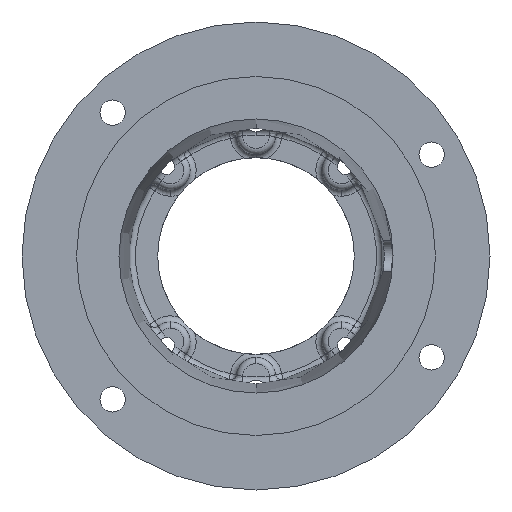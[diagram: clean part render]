
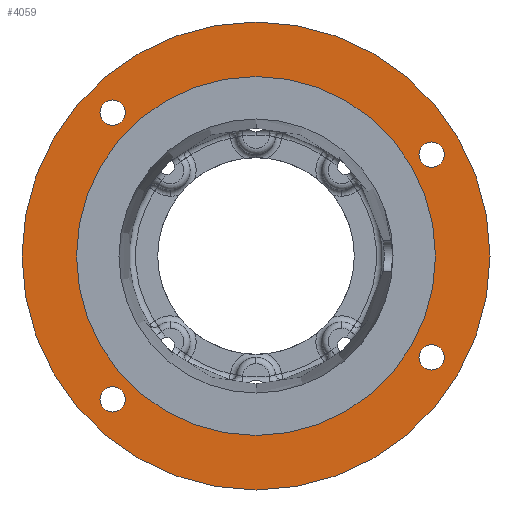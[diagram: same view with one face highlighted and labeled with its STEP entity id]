
A CAD part, front view. The second image highlights one B-rep face of the part: STEP entity #4059.
In plain terms, the highlighted planar face has unit normal (0, -1, 0).
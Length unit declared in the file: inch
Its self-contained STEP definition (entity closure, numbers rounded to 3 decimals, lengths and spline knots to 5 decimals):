
#79 = DIRECTION ( 'NONE',  ( 0., 0., 1. ) ) ;
#87 = AXIS2_PLACEMENT_3D ( 'NONE', #1024, #5288, #1628 ) ;
#194 = CARTESIAN_POINT ( 'NONE',  ( 2.81458, 0., 1.82812 ) ) ;
#209 = DIRECTION ( 'NONE',  ( 0., 0., -1. ) ) ;
#251 = VERTEX_POINT ( 'NONE', #7390 ) ;
#275 = CARTESIAN_POINT ( 'NONE',  ( -2.2981, 0., -2.2981 ) ) ;
#342 = FACE_OUTER_BOUND ( 'NONE', #5401, .T. ) ;
#460 = CARTESIAN_POINT ( 'NONE',  ( -2.2981, 0., 2.09497 ) ) ;
#553 = CARTESIAN_POINT ( 'NONE',  ( 0., 0., 0. ) ) ;
#637 = CARTESIAN_POINT ( 'NONE',  ( 2.81458, 0., 1.42187 ) ) ;
#789 = CARTESIAN_POINT ( 'NONE',  ( -2.2981, 0., -2.50122 ) ) ;
#796 = VERTEX_POINT ( 'NONE', #460 ) ;
#814 = DIRECTION ( 'NONE',  ( 0., -1., 0. ) ) ;
#867 = AXIS2_PLACEMENT_3D ( 'NONE', #553, #4816, #1185 ) ;
#907 = DIRECTION ( 'NONE',  ( 0., 0., -1. ) ) ;
#942 = VERTEX_POINT ( 'NONE', #3569 ) ;
#1024 = CARTESIAN_POINT ( 'NONE',  ( 0., 0., 0. ) ) ;
#1039 = VERTEX_POINT ( 'NONE', #6819 ) ;
#1185 = DIRECTION ( 'NONE',  ( 0., 0., -1. ) ) ;
#1298 = DIRECTION ( 'NONE',  ( 0., 1., 0. ) ) ;
#1456 = DIRECTION ( 'NONE',  ( 0., -1., 0. ) ) ;
#1461 = CARTESIAN_POINT ( 'NONE',  ( -2.2981, 0., 2.2981 ) ) ;
#1628 = DIRECTION ( 'NONE',  ( 0., 0., -1. ) ) ;
#1663 = ORIENTED_EDGE ( 'NONE', *, *, #7166, .F. ) ;
#1714 = AXIS2_PLACEMENT_3D ( 'NONE', #275, #4541, #907 ) ;
#1742 = AXIS2_PLACEMENT_3D ( 'NONE', #1461, #5743, #2092 ) ;
#1755 = AXIS2_PLACEMENT_3D ( 'NONE', #2036, #6326, #2667 ) ;
#1761 = ORIENTED_EDGE ( 'NONE', *, *, #5145, .F. ) ;
#1784 = AXIS2_PLACEMENT_3D ( 'NONE', #5643, #1978, #6270 ) ;
#1821 = AXIS2_PLACEMENT_3D ( 'NONE', #3155, #7474, #3739 ) ;
#1949 = VERTEX_POINT ( 'NONE', #3130 ) ;
#1978 = DIRECTION ( 'NONE',  ( 0., -1., 0. ) ) ;
#1984 = FACE_BOUND ( 'NONE', #4142, .T. ) ;
#2036 = CARTESIAN_POINT ( 'NONE',  ( 2.81458, 0., 1.625 ) ) ;
#2053 = CARTESIAN_POINT ( 'NONE',  ( 2.81458, 0., 1.625 ) ) ;
#2092 = DIRECTION ( 'NONE',  ( 0., 0., -1. ) ) ;
#2378 = FACE_BOUND ( 'NONE', #6090, .T. ) ;
#2582 = CIRCLE ( 'NONE', #6135, 2.876 ) ;
#2625 = ORIENTED_EDGE ( 'NONE', *, *, #7143, .F. ) ;
#2667 = DIRECTION ( 'NONE',  ( 0., 0., -1. ) ) ;
#2682 = CIRCLE ( 'NONE', #87, 3.75 ) ;
#2685 = DIRECTION ( 'NONE',  ( 0., 0., -1. ) ) ;
#2738 = AXIS2_PLACEMENT_3D ( 'NONE', #7464, #1298, #79 ) ;
#2768 = CIRCLE ( 'NONE', #4533, 0.20312 ) ;
#3130 = CARTESIAN_POINT ( 'NONE',  ( 2.81458, 0., -1.42188 ) ) ;
#3155 = CARTESIAN_POINT ( 'NONE',  ( 0., 0., 0. ) ) ;
#3216 = ORIENTED_EDGE ( 'NONE', *, *, #7151, .F. ) ;
#3246 = DIRECTION ( 'NONE',  ( 0., -1., 0. ) ) ;
#3558 = CIRCLE ( 'NONE', #1742, 0.20312 ) ;
#3569 = CARTESIAN_POINT ( 'NONE',  ( 0., 0., -2.876 ) ) ;
#3739 = DIRECTION ( 'NONE',  ( 0., 0., -1. ) ) ;
#3756 = CARTESIAN_POINT ( 'NONE',  ( 0., 0., 3.75 ) ) ;
#3871 = DIRECTION ( 'NONE',  ( 0., -1., 0. ) ) ;
#3973 = CIRCLE ( 'NONE', #4586, 0.20312 ) ;
#4059 = ADVANCED_FACE ( 'NONE', ( #5814, #5234, #2378, #7095, #1984, #342 ), #6827, .F. ) ;
#4130 = VERTEX_POINT ( 'NONE', #7502 ) ;
#4139 = CIRCLE ( 'NONE', #1784, 0.20312 ) ;
#4142 = EDGE_LOOP ( 'NONE', ( #1663, #6511 ) ) ;
#4158 = VERTEX_POINT ( 'NONE', #3756 ) ;
#4195 = VERTEX_POINT ( 'NONE', #789 ) ;
#4380 = VERTEX_POINT ( 'NONE', #5245 ) ;
#4454 = CARTESIAN_POINT ( 'NONE',  ( 2.81458, 0., -1.625 ) ) ;
#4533 = AXIS2_PLACEMENT_3D ( 'NONE', #4454, #814, #5085 ) ;
#4541 = DIRECTION ( 'NONE',  ( 0., -1., 0. ) ) ;
#4574 = VERTEX_POINT ( 'NONE', #5580 ) ;
#4586 = AXIS2_PLACEMENT_3D ( 'NONE', #7610, #3871, #209 ) ;
#4587 = AXIS2_PLACEMENT_3D ( 'NONE', #5113, #1456, #5738 ) ;
#4651 = VERTEX_POINT ( 'NONE', #194 ) ;
#4816 = DIRECTION ( 'NONE',  ( 0., -1., 0. ) ) ;
#5069 = EDGE_CURVE ( 'NONE', #4380, #942, #7856, .T. ) ;
#5085 = DIRECTION ( 'NONE',  ( 0., 0., -1. ) ) ;
#5093 = EDGE_CURVE ( 'NONE', #1949, #4130, #4139, .T. ) ;
#5113 = CARTESIAN_POINT ( 'NONE',  ( -2.2981, 0., -2.2981 ) ) ;
#5145 = EDGE_CURVE ( 'NONE', #4651, #5680, #5397, .T. ) ;
#5180 = EDGE_CURVE ( 'NONE', #251, #796, #3558, .T. ) ;
#5209 = EDGE_CURVE ( 'NONE', #1039, #4195, #6282, .T. ) ;
#5234 = FACE_BOUND ( 'NONE', #7671, .T. ) ;
#5245 = CARTESIAN_POINT ( 'NONE',  ( 0., 0., 2.876 ) ) ;
#5258 = CIRCLE ( 'NONE', #867, 3.75 ) ;
#5288 = DIRECTION ( 'NONE',  ( 0., -1., 0. ) ) ;
#5397 = CIRCLE ( 'NONE', #1755, 0.20312 ) ;
#5401 = EDGE_LOOP ( 'NONE', ( #5544, #5876 ) ) ;
#5544 = ORIENTED_EDGE ( 'NONE', *, *, #5968, .T. ) ;
#5580 = CARTESIAN_POINT ( 'NONE',  ( 0., 0., -3.75 ) ) ;
#5619 = CIRCLE ( 'NONE', #4587, 0.20312 ) ;
#5643 = CARTESIAN_POINT ( 'NONE',  ( 2.81458, 0., -1.625 ) ) ;
#5680 = VERTEX_POINT ( 'NONE', #637 ) ;
#5738 = DIRECTION ( 'NONE',  ( 0., 0., -1. ) ) ;
#5743 = DIRECTION ( 'NONE',  ( 0., -1., 0. ) ) ;
#5814 = FACE_BOUND ( 'NONE', #7762, .T. ) ;
#5876 = ORIENTED_EDGE ( 'NONE', *, *, #6941, .T. ) ;
#5968 = EDGE_CURVE ( 'NONE', #4574, #4158, #5258, .T. ) ;
#6090 = EDGE_LOOP ( 'NONE', ( #3216, #1761 ) ) ;
#6135 = AXIS2_PLACEMENT_3D ( 'NONE', #6946, #3246, #7579 ) ;
#6270 = DIRECTION ( 'NONE',  ( 0., 0., -1. ) ) ;
#6282 = CIRCLE ( 'NONE', #1714, 0.20312 ) ;
#6303 = AXIS2_PLACEMENT_3D ( 'NONE', #2053, #6345, #2685 ) ;
#6314 = ORIENTED_EDGE ( 'NONE', *, *, #7153, .F. ) ;
#6326 = DIRECTION ( 'NONE',  ( 0., -1., 0. ) ) ;
#6345 = DIRECTION ( 'NONE',  ( 0., -1., 0. ) ) ;
#6389 = EDGE_LOOP ( 'NONE', ( #6314, #6672 ) ) ;
#6511 = ORIENTED_EDGE ( 'NONE', *, *, #5209, .F. ) ;
#6672 = ORIENTED_EDGE ( 'NONE', *, *, #5180, .F. ) ;
#6819 = CARTESIAN_POINT ( 'NONE',  ( -2.2981, 0., -2.09497 ) ) ;
#6827 = PLANE ( 'NONE',  #2738 ) ;
#6941 = EDGE_CURVE ( 'NONE', #4158, #4574, #2682, .T. ) ;
#6946 = CARTESIAN_POINT ( 'NONE',  ( 0., 0., 0. ) ) ;
#7095 = FACE_BOUND ( 'NONE', #6389, .T. ) ;
#7143 = EDGE_CURVE ( 'NONE', #942, #4380, #2582, .T. ) ;
#7145 = EDGE_CURVE ( 'NONE', #4130, #1949, #2768, .T. ) ;
#7151 = EDGE_CURVE ( 'NONE', #5680, #4651, #7296, .T. ) ;
#7153 = EDGE_CURVE ( 'NONE', #796, #251, #3973, .T. ) ;
#7166 = EDGE_CURVE ( 'NONE', #4195, #1039, #5619, .T. ) ;
#7296 = CIRCLE ( 'NONE', #6303, 0.20312 ) ;
#7390 = CARTESIAN_POINT ( 'NONE',  ( -2.2981, 0., 2.50122 ) ) ;
#7464 = CARTESIAN_POINT ( 'NONE',  ( -2.20315, 0., 0. ) ) ;
#7474 = DIRECTION ( 'NONE',  ( 0., -1., 0. ) ) ;
#7502 = CARTESIAN_POINT ( 'NONE',  ( 2.81458, 0., -1.82813 ) ) ;
#7522 = ORIENTED_EDGE ( 'NONE', *, *, #7145, .F. ) ;
#7579 = DIRECTION ( 'NONE',  ( 0., 0., -1. ) ) ;
#7610 = CARTESIAN_POINT ( 'NONE',  ( -2.2981, 0., 2.2981 ) ) ;
#7671 = EDGE_LOOP ( 'NONE', ( #7522, #7732 ) ) ;
#7732 = ORIENTED_EDGE ( 'NONE', *, *, #5093, .F. ) ;
#7762 = EDGE_LOOP ( 'NONE', ( #2625, #7772 ) ) ;
#7772 = ORIENTED_EDGE ( 'NONE', *, *, #5069, .F. ) ;
#7856 = CIRCLE ( 'NONE', #1821, 2.876 ) ;
